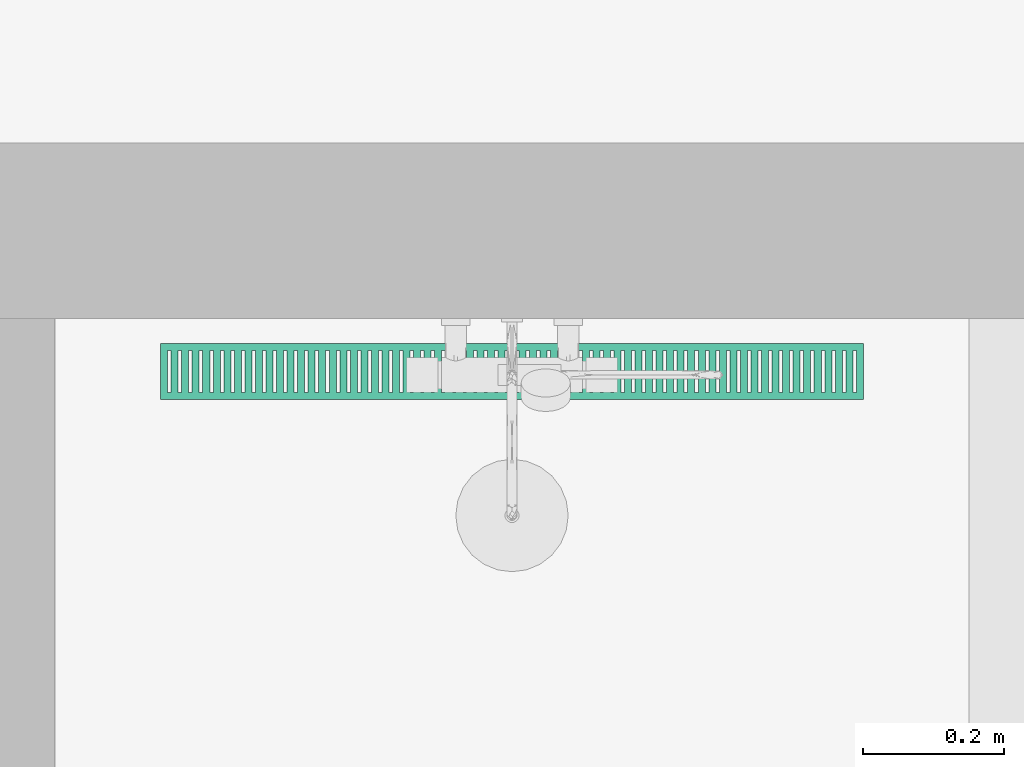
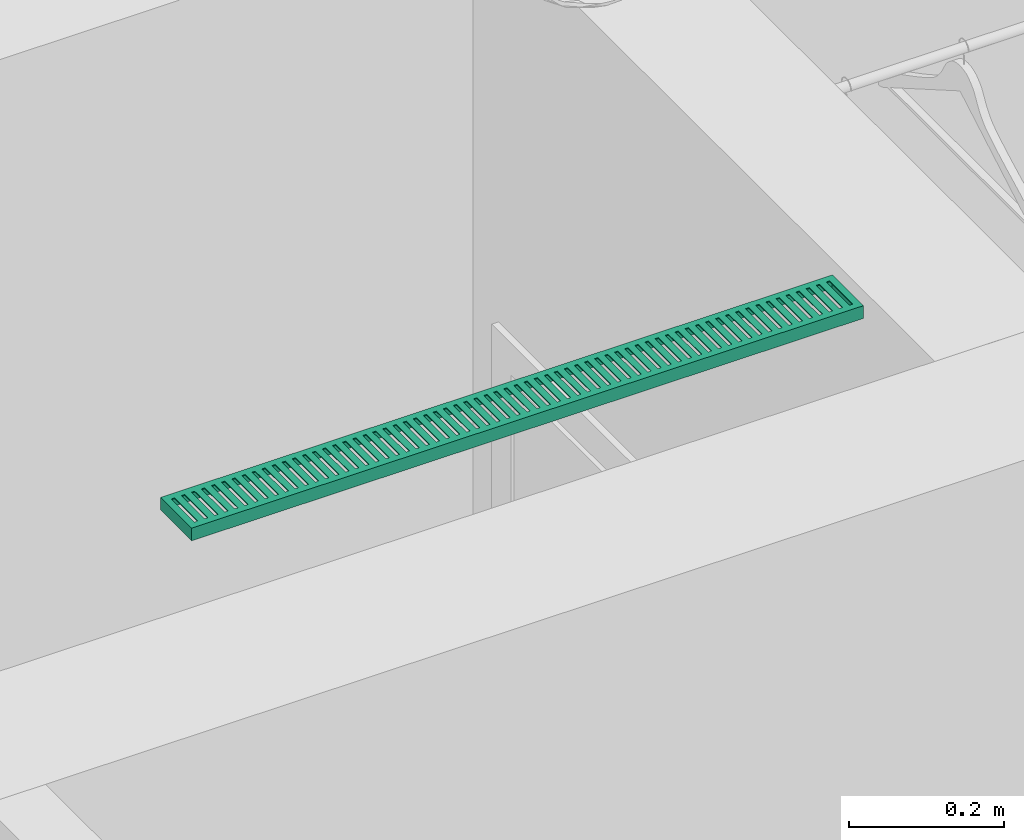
# One storey, part 48 of 125: 1 flow terminal.
"""IFC2X3 building model written with IfcOpenShell, lengths in millimetres."""

from ifc_helpers import new_model, entity, si_unit, converted_unit, direction, frame, origin, place, context, subcontext, project, spatial, faceted_brep, source, transform, mapped, material, type_object, type_shapes, element, save


model = new_model("IFC2X3")

# Units and contexts
model_context = context("Model", 3, precision=0.01, world=origin(), true_north=direction((6.123233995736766e-17, 1.0)))
plan_context = context("Plan", 3, precision=0.01, world=origin(), true_north=direction((6.123233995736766e-17, 1.0)))
body_context = subcontext(model_context, "Body", "Model", "MODEL_VIEW")
ifc_project = project(units=[si_unit("LENGTHUNIT", "METRE", prefix="MILLI"), converted_unit("PLANEANGLEUNIT", "DEGREE", entity("IfcPlaneAngleMeasure", 0.017453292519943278), si_unit("PLANEANGLEUNIT", "RADIAN"), dimensions=[0, 0, 0, 0, 0, 0, 0]), si_unit("AREAUNIT", "SQUARE_METRE")], contexts=[model_context, plan_context])

# Site, building, storey, space
site_placement = place(None, origin())
site = spatial("IfcSite", under=ifc_project, at=site_placement, Name="Default", CompositionType="ELEMENT")
building_placement = place(site_placement, origin())
building = spatial("IfcBuilding", under=site, at=building_placement, CompositionType="ELEMENT")
storey_placement = place(building_placement, frame((0.0, 0.0, 3125.0)))
storey = spatial("IfcBuildingStorey", under=building, at=storey_placement, Name="2K", CompositionType="ELEMENT", Elevation=3125.0)
space_placement = place(storey_placement, origin())
space = spatial("IfcSpace", under=storey, at=space_placement, Name="2-4.6", CompositionType="ELEMENT", InteriorOrExteriorSpace="INTERNAL")

# Flow terminal
ifc_material = material(Name="<Unnamed>")
distribution_element_type = type_object("IfcDistributionElementType", Name="HR_Plumbing-fixtures_Drain_Channel_Generic_v1:Default", material=ifc_material)
shared_shape = source(origin(), body_context, "Body", "Brep", [
    faceted_brep([(500.0, 80.0, 0.0), (-500.0, 80.0, 0.0), (-500.0, 0.0, 0.0), (500.0, 0.0, 0.0), (20.0, 70.0, 0.0), (25.0, 70.0, 0.0), (25.0, 10.0, 0.0), (20.0, 10.0, 0.0), (35.0, 70.0, 0.0), (40.0, 70.0, 0.0), (40.0, 10.0, 0.0), (35.0, 10.0, 0.0), (50.0, 70.0, 0.0), (55.0, 70.0, 0.0), (55.0, 10.0, 0.0), (50.0, 10.0, 0.0), (65.0, 70.0, 0.0), (70.0, 70.0, 0.0), (70.0, 10.0, 0.0), (65.0, 10.0, 0.0), (80.0, 70.0, 0.0), (85.0, 70.0, 0.0), (85.0, 10.0, 0.0), (80.0, 10.0, 0.0), (95.0, 70.0, 0.0), (100.0, 70.0, 0.0), (100.0, 10.0, 0.0), (95.0, 10.0, 0.0), (110.0, 70.0, 0.0), (115.0, 70.0, 0.0), (115.0, 10.0, 0.0), (110.0, 10.0, 0.0), (125.0, 70.0, 0.0), (130.0, 70.0, 0.0), (130.0, 10.0, 0.0), (125.0, 10.0, 0.0), (140.0, 70.0, 0.0), (145.0, 70.0, 0.0), (145.0, 10.0, 0.0), (140.0, 10.0, 0.0), (155.0, 70.0, 0.0), (160.0, 70.0, 0.0), (160.0, 10.0, 0.0), (155.0, 10.0, 0.0), (170.0, 70.0, 0.0), (175.0, 70.0, 0.0), (175.0, 10.0, 0.0), (170.0, 10.0, 0.0), (185.0, 70.0, 0.0), (190.0, 70.0, 0.0), (190.0, 10.0, 0.0), (185.0, 10.0, 0.0), (200.0, 70.0, 0.0), (205.0, 70.0, 0.0), (205.0, 10.0, 0.0), (200.0, 10.0, 0.0), (215.0, 70.0, 0.0), (220.0, 70.0, 0.0), (220.0, 10.0, 0.0), (215.0, 10.0, 0.0), (230.0, 70.0, 0.0), (235.0, 70.0, 0.0), (235.0, 10.0, 0.0), (230.0, 10.0, 0.0), (245.0, 70.0, 0.0), (250.0, 70.0, 0.0), (250.0, 10.0, 0.0), (245.0, 10.0, 0.0), (260.0, 70.0, 0.0), (265.0, 70.0, 0.0), (265.0, 10.0, 0.0), (260.0, 10.0, 0.0), (275.0, 70.0, 0.0), (280.0, 70.0, 0.0), (280.0, 10.0, 0.0), (275.0, 10.0, 0.0), (290.0, 70.0, 0.0), (295.0, 70.0, 0.0), (295.0, 10.0, 0.0), (290.0, 10.0, 0.0), (305.0, 70.0, 0.0), (310.0, 70.0, 0.0), (310.0, 10.0, 0.0), (305.0, 10.0, 0.0), (320.0, 70.0, 0.0), (325.0, 70.0, 0.0), (325.0, 10.0, 0.0), (320.0, 10.0, 0.0), (335.0, 70.0, 0.0), (340.0, 70.0, 0.0), (340.0, 10.0, 0.0), (335.0, 10.0, 0.0), (350.0, 70.0, 0.0), (355.0, 70.0, 0.0), (355.0, 10.0, 0.0), (350.0, 10.0, 0.0), (365.0, 70.0, 0.0), (370.0, 70.0, 0.0), (370.0, 10.0, 0.0), (365.0, 10.0, 0.0), (380.0, 70.0, 0.0), (385.0, 70.0, 0.0), (385.0, 10.0, 0.0), (380.0, 10.0, 0.0), (-25.0, 70.0, 0.0), (-20.0, 70.0, 0.0), (-20.0, 10.0, 0.0), (-25.0, 10.0, 0.0), (-40.0, 70.0, 0.0), (-35.0, 70.0, 0.0), (-35.0, 10.0, 0.0), (-40.0, 10.0, 0.0), (-55.0, 70.0, 0.0), (-50.0, 70.0, 0.0), (-50.0, 10.0, 0.0), (-55.0, 10.0, 0.0), (-70.0, 70.0, 0.0), (-65.0, 70.0, 0.0), (-65.0, 10.0, 0.0), (-70.0, 10.0, 0.0), (-85.0, 70.0, 0.0), (-80.0, 70.0, 0.0), (-80.0, 10.0, 0.0), (-85.0, 10.0, 0.0), (-100.0, 70.0, 0.0), (-95.0, 70.0, 0.0), (-95.0, 10.0, 0.0), (-100.0, 10.0, 0.0), (-115.0, 70.0, 0.0), (-110.0, 70.0, 0.0), (-110.0, 10.0, 0.0), (-115.0, 10.0, 0.0), (-130.0, 70.0, 0.0), (-125.0, 70.0, 0.0), (-125.0, 10.0, 0.0), (-130.0, 10.0, 0.0), (-145.0, 70.0, 0.0), (-140.0, 70.0, 0.0), (-140.0, 10.0, 0.0), (-145.0, 10.0, 0.0), (-160.0, 70.0, 0.0), (-155.0, 70.0, 0.0), (-155.0, 10.0, 0.0), (-160.0, 10.0, 0.0), (-175.0, 70.0, 0.0), (-170.0, 70.0, 0.0), (-170.0, 10.0, 0.0), (-175.0, 10.0, 0.0), (-190.0, 70.0, 0.0), (-185.0, 70.0, 0.0), (-185.0, 10.0, 0.0), (-190.0, 10.0, 0.0), (-205.0, 70.0, 0.0), (-200.0, 70.0, 0.0), (-200.0, 10.0, 0.0), (-205.0, 10.0, 0.0), (-220.0, 70.0, 0.0), (-215.0, 70.0, 0.0), (-215.0, 10.0, 0.0), (-220.0, 10.0, 0.0), (-235.0, 70.0, 0.0), (-230.0, 70.0, 0.0), (-230.0, 10.0, 0.0), (-235.0, 10.0, 0.0), (-250.0, 70.0, 0.0), (-245.0, 70.0, 0.0), (-245.0, 10.0, 0.0), (-250.0, 10.0, 0.0), (-265.0, 70.0, 0.0), (-260.0, 70.0, 0.0), (-260.0, 10.0, 0.0), (-265.0, 10.0, 0.0), (-280.0, 70.0, 0.0), (-275.0, 70.0, 0.0), (-275.0, 10.0, 0.0), (-280.0, 10.0, 0.0), (-295.0, 70.0, 0.0), (-290.0, 70.0, 0.0), (-290.0, 10.0, 0.0), (-295.0, 10.0, 0.0), (-310.0, 70.0, 0.0), (-305.0, 70.0, 0.0), (-305.0, 10.0, 0.0), (-310.0, 10.0, 0.0), (-325.0, 70.0, 0.0), (-320.0, 70.0, 0.0), (-320.0, 10.0, 0.0), (-325.0, 10.0, 0.0), (-340.0, 70.0, 0.0), (-335.0, 70.0, 0.0), (-335.0, 10.0, 0.0), (-340.0, 10.0, 0.0), (-355.0, 70.0, 0.0), (-350.0, 70.0, 0.0), (-350.0, 10.0, 0.0), (-355.0, 10.0, 0.0), (-370.0, 70.0, 0.0), (-365.0, 70.0, 0.0), (-365.0, 10.0, 0.0), (-370.0, 10.0, 0.0), (-385.0, 70.0, 0.0), (-380.0, 70.0, 0.0), (-380.0, 10.0, 0.0), (-385.0, 10.0, 0.0), (395.0, 70.0, 0.0), (400.0, 70.0, 0.0), (400.0, 10.0, 0.0), (395.0, 10.0, 0.0), (410.0, 70.0, 0.0), (415.0, 70.0, 0.0), (415.0, 10.0, 0.0), (410.0, 10.0, 0.0), (425.0, 70.0, 0.0), (430.0, 70.0, 0.0), (430.0, 10.0, 0.0), (425.0, 10.0, 0.0), (440.0, 70.0, 0.0), (445.0, 70.0, 0.0), (445.0, 10.0, 0.0), (440.0, 10.0, 0.0), (455.0, 70.0, 0.0), (460.0, 70.0, 0.0), (460.0, 10.0, 0.0), (455.0, 10.0, 0.0), (470.0, 70.0, 0.0), (475.0, 70.0, 0.0), (475.0, 10.0, 0.0), (470.0, 10.0, 0.0), (485.0, 70.0, 0.0), (490.0, 70.0, 0.0), (490.0, 10.0, 0.0), (485.0, 10.0, 0.0), (-400.0, 70.0, 0.0), (-395.0, 70.0, 0.0), (-395.0, 10.0, 0.0), (-400.0, 10.0, 0.0), (-415.0, 70.0, 0.0), (-410.0, 70.0, 0.0), (-410.0, 10.0, 0.0), (-415.0, 10.0, 0.0), (-430.0, 70.0, 0.0), (-425.0, 70.0, 0.0), (-425.0, 10.0, 0.0), (-430.0, 10.0, 0.0), (-445.0, 70.0, 0.0), (-440.0, 70.0, 0.0), (-440.0, 10.0, 0.0), (-445.0, 10.0, 0.0), (-460.0, 70.0, 0.0), (-455.0, 70.0, 0.0), (-455.0, 10.0, 0.0), (-460.0, 10.0, 0.0), (-475.0, 70.0, 0.0), (-470.0, 70.0, 0.0), (-470.0, 10.0, 0.0), (-475.0, 10.0, 0.0), (-490.0, 70.0, 0.0), (-485.0, 70.0, 0.0), (-485.0, 10.0, 0.0), (-490.0, 10.0, 0.0), (-10.0, 70.0, 0.0), (-5.0, 70.0, 0.0), (-5.0, 10.0, 0.0), (-10.0, 10.0, 0.0), (5.0, 70.0, 0.0), (10.0, 70.0, 0.0), (10.0, 10.0, 0.0), (5.0, 10.0, 0.0), (-500.0, 80.0, -20.0), (500.0, 80.0, -20.0), (500.0, 0.0, -20.0), (-500.0, 0.0, -20.0), (498.5000000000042, 78.500000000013, -20.0), (-498.49999999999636, 78.500000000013, -20.0), (-498.49999999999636, 1.5000000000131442, -20.0), (498.5000000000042, 1.5000000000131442, -20.0), (498.5000000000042, 78.500000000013, -1.5000000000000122), (498.5000000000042, 1.5000000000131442, -1.5000000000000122), (-498.49999999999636, 1.5000000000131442, -1.5000000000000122), (-498.49999999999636, 78.500000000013, -1.5000000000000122), (25.0, 70.0, -1.5000000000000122), (20.0, 70.0, -1.5000000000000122), (20.0, 10.0, -1.5000000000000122), (25.0, 10.0, -1.5000000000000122), (40.0, 70.0, -1.5000000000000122), (35.0, 70.0, -1.5000000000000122), (35.0, 10.0, -1.5000000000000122), (40.0, 10.0, -1.5000000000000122), (55.0, 70.0, -1.5000000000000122), (50.0, 70.0, -1.5000000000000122), (50.0, 10.0, -1.5000000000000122), (55.0, 10.0, -1.5000000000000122), (70.0, 70.0, -1.5000000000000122), (65.0, 70.0, -1.5000000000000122), (65.0, 10.0, -1.5000000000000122), (70.0, 10.0, -1.5000000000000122), (85.0, 70.0, -1.5000000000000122), (80.0, 70.0, -1.5000000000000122), (80.0, 10.0, -1.5000000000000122), (85.0, 10.0, -1.5000000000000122), (100.0, 70.0, -1.5000000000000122), (95.0, 70.0, -1.5000000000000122), (95.0, 10.0, -1.5000000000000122), (100.0, 10.0, -1.5000000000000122), (115.0, 70.0, -1.5000000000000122), (110.0, 70.0, -1.5000000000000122), (110.0, 10.0, -1.5000000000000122), (115.0, 10.0, -1.5000000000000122), (130.0, 70.0, -1.5000000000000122), (125.0, 70.0, -1.5000000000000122), (125.0, 10.0, -1.5000000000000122), (130.0, 10.0, -1.5000000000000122), (145.0, 70.0, -1.5000000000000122), (140.0, 70.0, -1.5000000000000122), (140.0, 10.0, -1.5000000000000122), (145.0, 10.0, -1.5000000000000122), (160.0, 70.0, -1.5000000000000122), (155.0, 70.0, -1.5000000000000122), (155.0, 10.0, -1.5000000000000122), (160.0, 10.0, -1.5000000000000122), (175.0, 70.0, -1.5000000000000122), (170.0, 70.0, -1.5000000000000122), (170.0, 10.0, -1.5000000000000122), (175.0, 10.0, -1.5000000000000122), (190.0, 70.0, -1.5000000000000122), (185.0, 70.0, -1.5000000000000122), (185.0, 10.0, -1.5000000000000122), (190.0, 10.0, -1.5000000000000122), (205.0, 70.0, -1.5000000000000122), (200.0, 70.0, -1.5000000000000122), (200.0, 10.0, -1.5000000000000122), (205.0, 10.0, -1.5000000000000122), (220.0, 70.0, -1.5000000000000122), (215.0, 70.0, -1.5000000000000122), (215.0, 10.0, -1.5000000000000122), (220.0, 10.0, -1.5000000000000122), (235.0, 70.0, -1.5000000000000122), (230.0, 70.0, -1.5000000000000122), (230.0, 10.0, -1.5000000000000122), (235.0, 10.0, -1.5000000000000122), (250.0, 70.0, -1.5000000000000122), (245.0, 70.0, -1.5000000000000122), (245.0, 10.0, -1.5000000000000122), (250.0, 10.0, -1.5000000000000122), (265.0, 70.0, -1.5000000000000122), (260.0, 70.0, -1.5000000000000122), (260.0, 10.0, -1.5000000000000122), (265.0, 10.0, -1.5000000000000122), (280.0, 70.0, -1.5000000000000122), (275.0, 70.0, -1.5000000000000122), (275.0, 10.0, -1.5000000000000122), (280.0, 10.0, -1.5000000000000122), (295.0, 70.0, -1.5000000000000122), (290.0, 70.0, -1.5000000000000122), (290.0, 10.0, -1.5000000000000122), (295.0, 10.0, -1.5000000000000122), (310.0, 70.0, -1.5000000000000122), (305.0, 70.0, -1.5000000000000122), (305.0, 10.0, -1.5000000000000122), (310.0, 10.0, -1.5000000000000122), (325.0, 70.0, -1.5000000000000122), (320.0, 70.0, -1.5000000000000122), (320.0, 10.0, -1.5000000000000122), (325.0, 10.0, -1.5000000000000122), (340.0, 70.0, -1.5000000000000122), (335.0, 70.0, -1.5000000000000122), (335.0, 10.0, -1.5000000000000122), (340.0, 10.0, -1.5000000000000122), (355.0, 70.0, -1.5000000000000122), (350.0, 70.0, -1.5000000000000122), (350.0, 10.0, -1.5000000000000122), (355.0, 10.0, -1.5000000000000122), (370.0, 70.0, -1.5000000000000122), (365.0, 70.0, -1.5000000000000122), (365.0, 10.0, -1.5000000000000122), (370.0, 10.0, -1.5000000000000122), (385.0, 70.0, -1.5000000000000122), (380.0, 70.0, -1.5000000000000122), (380.0, 10.0, -1.5000000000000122), (385.0, 10.0, -1.5000000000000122), (-20.0, 70.0, -1.5000000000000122), (-25.0, 70.0, -1.5000000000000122), (-25.0, 10.0, -1.5000000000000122), (-20.0, 10.0, -1.5000000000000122), (-35.0, 70.0, -1.5000000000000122), (-40.0, 70.0, -1.5000000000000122), (-40.0, 10.0, -1.5000000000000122), (-35.0, 10.0, -1.5000000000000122), (-50.0, 70.0, -1.5000000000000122), (-55.0, 70.0, -1.5000000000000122), (-55.0, 10.0, -1.5000000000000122), (-50.0, 10.0, -1.5000000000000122), (-65.0, 70.0, -1.5000000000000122), (-70.0, 70.0, -1.5000000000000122), (-70.0, 10.0, -1.5000000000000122), (-65.0, 10.0, -1.5000000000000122), (-80.0, 70.0, -1.5000000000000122), (-85.0, 70.0, -1.5000000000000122), (-85.0, 10.0, -1.5000000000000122), (-80.0, 10.0, -1.5000000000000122), (-95.0, 70.0, -1.5000000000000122), (-100.0, 70.0, -1.5000000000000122), (-100.0, 10.0, -1.5000000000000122), (-95.0, 10.0, -1.5000000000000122), (-110.0, 70.0, -1.5000000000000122), (-115.0, 70.0, -1.5000000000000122), (-115.0, 10.0, -1.5000000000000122), (-110.0, 10.0, -1.5000000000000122), (-125.0, 70.0, -1.5000000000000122), (-130.0, 70.0, -1.5000000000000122), (-130.0, 10.0, -1.5000000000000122), (-125.0, 10.0, -1.5000000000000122), (-140.0, 70.0, -1.5000000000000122), (-145.0, 70.0, -1.5000000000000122), (-145.0, 10.0, -1.5000000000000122), (-140.0, 10.0, -1.5000000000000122), (-155.0, 70.0, -1.5000000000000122), (-160.0, 70.0, -1.5000000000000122), (-160.0, 10.0, -1.5000000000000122), (-155.0, 10.0, -1.5000000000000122), (-170.0, 70.0, -1.5000000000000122), (-175.0, 70.0, -1.5000000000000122), (-175.0, 10.0, -1.5000000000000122), (-170.0, 10.0, -1.5000000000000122), (-185.0, 70.0, -1.5000000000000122), (-190.0, 70.0, -1.5000000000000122), (-190.0, 10.0, -1.5000000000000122), (-185.0, 10.0, -1.5000000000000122), (-200.0, 70.0, -1.5000000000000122), (-205.0, 70.0, -1.5000000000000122), (-205.0, 10.0, -1.5000000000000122), (-200.0, 10.0, -1.5000000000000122), (-215.0, 70.0, -1.5000000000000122), (-220.0, 70.0, -1.5000000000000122), (-220.0, 10.0, -1.5000000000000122), (-215.0, 10.0, -1.5000000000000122), (-230.0, 70.0, -1.5000000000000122), (-235.0, 70.0, -1.5000000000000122), (-235.0, 10.0, -1.5000000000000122), (-230.0, 10.0, -1.5000000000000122), (-245.0, 70.0, -1.5000000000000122), (-250.0, 70.0, -1.5000000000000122), (-250.0, 10.0, -1.5000000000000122), (-245.0, 10.0, -1.5000000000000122), (-260.0, 70.0, -1.5000000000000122), (-265.0, 70.0, -1.5000000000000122), (-265.0, 10.0, -1.5000000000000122), (-260.0, 10.0, -1.5000000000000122), (-275.0, 70.0, -1.5000000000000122), (-280.0, 70.0, -1.5000000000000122), (-280.0, 10.0, -1.5000000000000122), (-275.0, 10.0, -1.5000000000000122), (-290.0, 70.0, -1.5000000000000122), (-295.0, 70.0, -1.5000000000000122), (-295.0, 10.0, -1.5000000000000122), (-290.0, 10.0, -1.5000000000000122), (-305.0, 70.0, -1.5000000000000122), (-310.0, 70.0, -1.5000000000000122), (-310.0, 10.0, -1.5000000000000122), (-305.0, 10.0, -1.5000000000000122), (-320.0, 70.0, -1.5000000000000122), (-325.0, 70.0, -1.5000000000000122), (-325.0, 10.0, -1.5000000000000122), (-320.0, 10.0, -1.5000000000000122), (-335.0, 70.0, -1.5000000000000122), (-340.0, 70.0, -1.5000000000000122), (-340.0, 10.0, -1.5000000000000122), (-335.0, 10.0, -1.5000000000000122), (-350.0, 70.0, -1.5000000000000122), (-355.0, 70.0, -1.5000000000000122), (-355.0, 10.0, -1.5000000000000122), (-350.0, 10.0, -1.5000000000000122), (-365.0, 70.0, -1.5000000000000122), (-370.0, 70.0, -1.5000000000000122), (-370.0, 10.0, -1.5000000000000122), (-365.0, 10.0, -1.5000000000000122), (-380.0, 70.0, -1.5000000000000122), (-385.0, 70.0, -1.5000000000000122), (-385.0, 10.0, -1.5000000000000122), (-380.0, 10.0, -1.5000000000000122), (400.0, 70.0, -1.5000000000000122), (395.0, 70.0, -1.5000000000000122), (395.0, 10.0, -1.5000000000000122), (400.0, 10.0, -1.5000000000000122), (415.0, 70.0, -1.5000000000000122), (410.0, 70.0, -1.5000000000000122), (410.0, 10.0, -1.5000000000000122), (415.0, 10.0, -1.5000000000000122), (430.0, 70.0, -1.5000000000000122), (425.0, 70.0, -1.5000000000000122), (425.0, 10.0, -1.5000000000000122), (430.0, 10.0, -1.5000000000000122), (445.0, 70.0, -1.5000000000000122), (440.0, 70.0, -1.5000000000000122), (440.0, 10.0, -1.5000000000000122), (445.0, 10.0, -1.5000000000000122), (460.0, 70.0, -1.5000000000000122), (455.0, 70.0, -1.5000000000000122), (455.0, 10.0, -1.5000000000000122), (460.0, 10.0, -1.5000000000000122), (475.0, 70.0, -1.5000000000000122), (470.0, 70.0, -1.5000000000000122), (470.0, 10.0, -1.5000000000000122), (475.0, 10.0, -1.5000000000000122), (490.0, 70.0, -1.5000000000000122), (485.0, 70.0, -1.5000000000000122), (485.0, 10.0, -1.5000000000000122), (490.0, 10.0, -1.5000000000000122), (-395.0, 70.0, -1.5000000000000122), (-400.0, 70.0, -1.5000000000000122), (-400.0, 10.0, -1.5000000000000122), (-395.0, 10.0, -1.5000000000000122), (-410.0, 70.0, -1.5000000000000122), (-415.0, 70.0, -1.5000000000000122), (-415.0, 10.0, -1.5000000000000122), (-410.0, 10.0, -1.5000000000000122), (-425.0, 70.0, -1.5000000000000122), (-430.0, 70.0, -1.5000000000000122), (-430.0, 10.0, -1.5000000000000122), (-425.0, 10.0, -1.5000000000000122), (-440.0, 70.0, -1.5000000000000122), (-445.0, 70.0, -1.5000000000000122), (-445.0, 10.0, -1.5000000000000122), (-440.0, 10.0, -1.5000000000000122), (-455.0, 70.0, -1.5000000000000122), (-460.0, 70.0, -1.5000000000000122), (-460.0, 10.0, -1.5000000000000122), (-455.0, 10.0, -1.5000000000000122), (-470.0, 70.0, -1.5000000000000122), (-475.0, 70.0, -1.5000000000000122), (-475.0, 10.0, -1.5000000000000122), (-470.0, 10.0, -1.5000000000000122), (-485.0, 70.0, -1.5000000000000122), (-490.0, 70.0, -1.5000000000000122), (-490.0, 10.0, -1.5000000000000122), (-485.0, 10.0, -1.5000000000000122), (-5.0, 70.0, -1.5000000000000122), (-10.0, 70.0, -1.5000000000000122), (-10.0, 10.0, -1.5000000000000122), (-5.0, 10.0, -1.5000000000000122), (10.0, 70.0, -1.5000000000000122), (5.0, 70.0, -1.5000000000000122), (5.0, 10.0, -1.5000000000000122), (10.0, 10.0, -1.5000000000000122)], [[[0, 1, 2, 3], [4, 5, 6, 7], [8, 9, 10, 11], [12, 13, 14, 15], [16, 17, 18, 19], [20, 21, 22, 23], [24, 25, 26, 27], [28, 29, 30, 31], [32, 33, 34, 35], [36, 37, 38, 39], [40, 41, 42, 43], [44, 45, 46, 47], [48, 49, 50, 51], [52, 53, 54, 55], [56, 57, 58, 59], [60, 61, 62, 63], [64, 65, 66, 67], [68, 69, 70, 71], [72, 73, 74, 75], [76, 77, 78, 79], [80, 81, 82, 83], [84, 85, 86, 87], [88, 89, 90, 91], [92, 93, 94, 95], [96, 97, 98, 99], [100, 101, 102, 103], [104, 105, 106, 107], [108, 109, 110, 111], [112, 113, 114, 115], [116, 117, 118, 119], [120, 121, 122, 123], [124, 125, 126, 127], [128, 129, 130, 131], [132, 133, 134, 135], [136, 137, 138, 139], [140, 141, 142, 143], [144, 145, 146, 147], [148, 149, 150, 151], [152, 153, 154, 155], [156, 157, 158, 159], [160, 161, 162, 163], [164, 165, 166, 167], [168, 169, 170, 171], [172, 173, 174, 175], [176, 177, 178, 179], [180, 181, 182, 183], [184, 185, 186, 187], [188, 189, 190, 191], [192, 193, 194, 195], [196, 197, 198, 199], [200, 201, 202, 203], [204, 205, 206, 207], [208, 209, 210, 211], [212, 213, 214, 215], [216, 217, 218, 219], [220, 221, 222, 223], [224, 225, 226, 227], [228, 229, 230, 231], [232, 233, 234, 235], [236, 237, 238, 239], [240, 241, 242, 243], [244, 245, 246, 247], [248, 249, 250, 251], [252, 253, 254, 255], [256, 257, 258, 259], [260, 261, 262, 263], [264, 265, 266, 267]], [[268, 269, 270, 271], [272, 273, 274, 275]], [[1, 0, 269, 268]], [[2, 1, 268, 271]], [[3, 2, 271, 270]], [[0, 3, 270, 269]], [[276, 277, 278, 279], [280, 281, 282, 283], [284, 285, 286, 287], [288, 289, 290, 291], [292, 293, 294, 295], [296, 297, 298, 299], [300, 301, 302, 303], [304, 305, 306, 307], [308, 309, 310, 311], [312, 313, 314, 315], [316, 317, 318, 319], [320, 321, 322, 323], [324, 325, 326, 327], [328, 329, 330, 331], [332, 333, 334, 335], [336, 337, 338, 339], [340, 341, 342, 343], [344, 345, 346, 347], [348, 349, 350, 351], [352, 353, 354, 355], [356, 357, 358, 359], [360, 361, 362, 363], [364, 365, 366, 367], [368, 369, 370, 371], [372, 373, 374, 375], [376, 377, 378, 379], [380, 381, 382, 383], [384, 385, 386, 387], [388, 389, 390, 391], [392, 393, 394, 395], [396, 397, 398, 399], [400, 401, 402, 403], [404, 405, 406, 407], [408, 409, 410, 411], [412, 413, 414, 415], [416, 417, 418, 419], [420, 421, 422, 423], [424, 425, 426, 427], [428, 429, 430, 431], [432, 433, 434, 435], [436, 437, 438, 439], [440, 441, 442, 443], [444, 445, 446, 447], [448, 449, 450, 451], [452, 453, 454, 455], [456, 457, 458, 459], [460, 461, 462, 463], [464, 465, 466, 467], [468, 469, 470, 471], [472, 473, 474, 475], [476, 477, 478, 479], [480, 481, 482, 483], [484, 485, 486, 487], [488, 489, 490, 491], [492, 493, 494, 495], [496, 497, 498, 499], [500, 501, 502, 503], [504, 505, 506, 507], [508, 509, 510, 511], [512, 513, 514, 515], [516, 517, 518, 519], [520, 521, 522, 523], [524, 525, 526, 527], [528, 529, 530, 531], [532, 533, 534, 535], [536, 537, 538, 539], [540, 541, 542, 543]], [[276, 279, 273, 272]], [[279, 278, 274, 273]], [[278, 277, 275, 274]], [[277, 276, 272, 275]], [[5, 4, 281, 280]], [[4, 7, 282, 281]], [[7, 6, 283, 282]], [[6, 5, 280, 283]], [[9, 8, 285, 284]], [[8, 11, 286, 285]], [[11, 10, 287, 286]], [[10, 9, 284, 287]], [[13, 12, 289, 288]], [[12, 15, 290, 289]], [[15, 14, 291, 290]], [[14, 13, 288, 291]], [[17, 16, 293, 292]], [[16, 19, 294, 293]], [[19, 18, 295, 294]], [[18, 17, 292, 295]], [[21, 20, 297, 296]], [[20, 23, 298, 297]], [[23, 22, 299, 298]], [[22, 21, 296, 299]], [[25, 24, 301, 300]], [[24, 27, 302, 301]], [[27, 26, 303, 302]], [[26, 25, 300, 303]], [[29, 28, 305, 304]], [[28, 31, 306, 305]], [[31, 30, 307, 306]], [[30, 29, 304, 307]], [[33, 32, 309, 308]], [[32, 35, 310, 309]], [[35, 34, 311, 310]], [[34, 33, 308, 311]], [[37, 36, 313, 312]], [[36, 39, 314, 313]], [[39, 38, 315, 314]], [[38, 37, 312, 315]], [[41, 40, 317, 316]], [[40, 43, 318, 317]], [[43, 42, 319, 318]], [[42, 41, 316, 319]], [[45, 44, 321, 320]], [[44, 47, 322, 321]], [[47, 46, 323, 322]], [[46, 45, 320, 323]], [[49, 48, 325, 324]], [[48, 51, 326, 325]], [[51, 50, 327, 326]], [[50, 49, 324, 327]], [[53, 52, 329, 328]], [[52, 55, 330, 329]], [[55, 54, 331, 330]], [[54, 53, 328, 331]], [[57, 56, 333, 332]], [[56, 59, 334, 333]], [[59, 58, 335, 334]], [[58, 57, 332, 335]], [[61, 60, 337, 336]], [[60, 63, 338, 337]], [[63, 62, 339, 338]], [[62, 61, 336, 339]], [[65, 64, 341, 340]], [[64, 67, 342, 341]], [[67, 66, 343, 342]], [[66, 65, 340, 343]], [[69, 68, 345, 344]], [[68, 71, 346, 345]], [[71, 70, 347, 346]], [[70, 69, 344, 347]], [[73, 72, 349, 348]], [[72, 75, 350, 349]], [[75, 74, 351, 350]], [[74, 73, 348, 351]], [[77, 76, 353, 352]], [[76, 79, 354, 353]], [[79, 78, 355, 354]], [[78, 77, 352, 355]], [[81, 80, 357, 356]], [[80, 83, 358, 357]], [[83, 82, 359, 358]], [[82, 81, 356, 359]], [[85, 84, 361, 360]], [[84, 87, 362, 361]], [[87, 86, 363, 362]], [[86, 85, 360, 363]], [[89, 88, 365, 364]], [[88, 91, 366, 365]], [[91, 90, 367, 366]], [[90, 89, 364, 367]], [[93, 92, 369, 368]], [[92, 95, 370, 369]], [[95, 94, 371, 370]], [[94, 93, 368, 371]], [[97, 96, 373, 372]], [[96, 99, 374, 373]], [[99, 98, 375, 374]], [[98, 97, 372, 375]], [[101, 100, 377, 376]], [[100, 103, 378, 377]], [[103, 102, 379, 378]], [[102, 101, 376, 379]], [[105, 104, 381, 380]], [[104, 107, 382, 381]], [[107, 106, 383, 382]], [[106, 105, 380, 383]], [[109, 108, 385, 384]], [[108, 111, 386, 385]], [[111, 110, 387, 386]], [[110, 109, 384, 387]], [[113, 112, 389, 388]], [[112, 115, 390, 389]], [[115, 114, 391, 390]], [[114, 113, 388, 391]], [[117, 116, 393, 392]], [[116, 119, 394, 393]], [[119, 118, 395, 394]], [[118, 117, 392, 395]], [[121, 120, 397, 396]], [[120, 123, 398, 397]], [[123, 122, 399, 398]], [[122, 121, 396, 399]], [[125, 124, 401, 400]], [[124, 127, 402, 401]], [[127, 126, 403, 402]], [[126, 125, 400, 403]], [[129, 128, 405, 404]], [[128, 131, 406, 405]], [[131, 130, 407, 406]], [[130, 129, 404, 407]], [[133, 132, 409, 408]], [[132, 135, 410, 409]], [[135, 134, 411, 410]], [[134, 133, 408, 411]], [[137, 136, 413, 412]], [[136, 139, 414, 413]], [[139, 138, 415, 414]], [[138, 137, 412, 415]], [[141, 140, 417, 416]], [[140, 143, 418, 417]], [[143, 142, 419, 418]], [[142, 141, 416, 419]], [[145, 144, 421, 420]], [[144, 147, 422, 421]], [[147, 146, 423, 422]], [[146, 145, 420, 423]], [[149, 148, 425, 424]], [[148, 151, 426, 425]], [[151, 150, 427, 426]], [[150, 149, 424, 427]], [[153, 152, 429, 428]], [[152, 155, 430, 429]], [[155, 154, 431, 430]], [[154, 153, 428, 431]], [[157, 156, 433, 432]], [[156, 159, 434, 433]], [[159, 158, 435, 434]], [[158, 157, 432, 435]], [[161, 160, 437, 436]], [[160, 163, 438, 437]], [[163, 162, 439, 438]], [[162, 161, 436, 439]], [[165, 164, 441, 440]], [[164, 167, 442, 441]], [[167, 166, 443, 442]], [[166, 165, 440, 443]], [[169, 168, 445, 444]], [[168, 171, 446, 445]], [[171, 170, 447, 446]], [[170, 169, 444, 447]], [[173, 172, 449, 448]], [[172, 175, 450, 449]], [[175, 174, 451, 450]], [[174, 173, 448, 451]], [[177, 176, 453, 452]], [[176, 179, 454, 453]], [[179, 178, 455, 454]], [[178, 177, 452, 455]], [[181, 180, 457, 456]], [[180, 183, 458, 457]], [[183, 182, 459, 458]], [[182, 181, 456, 459]], [[185, 184, 461, 460]], [[184, 187, 462, 461]], [[187, 186, 463, 462]], [[186, 185, 460, 463]], [[189, 188, 465, 464]], [[188, 191, 466, 465]], [[191, 190, 467, 466]], [[190, 189, 464, 467]], [[193, 192, 469, 468]], [[192, 195, 470, 469]], [[195, 194, 471, 470]], [[194, 193, 468, 471]], [[197, 196, 473, 472]], [[196, 199, 474, 473]], [[199, 198, 475, 474]], [[198, 197, 472, 475]], [[201, 200, 477, 476]], [[200, 203, 478, 477]], [[203, 202, 479, 478]], [[202, 201, 476, 479]], [[205, 204, 481, 480]], [[204, 207, 482, 481]], [[207, 206, 483, 482]], [[206, 205, 480, 483]], [[209, 208, 485, 484]], [[208, 211, 486, 485]], [[211, 210, 487, 486]], [[210, 209, 484, 487]], [[213, 212, 489, 488]], [[212, 215, 490, 489]], [[215, 214, 491, 490]], [[214, 213, 488, 491]], [[217, 216, 493, 492]], [[216, 219, 494, 493]], [[219, 218, 495, 494]], [[218, 217, 492, 495]], [[221, 220, 497, 496]], [[220, 223, 498, 497]], [[223, 222, 499, 498]], [[222, 221, 496, 499]], [[225, 224, 501, 500]], [[224, 227, 502, 501]], [[227, 226, 503, 502]], [[226, 225, 500, 503]], [[229, 228, 505, 504]], [[228, 231, 506, 505]], [[231, 230, 507, 506]], [[230, 229, 504, 507]], [[233, 232, 509, 508]], [[232, 235, 510, 509]], [[235, 234, 511, 510]], [[234, 233, 508, 511]], [[237, 236, 513, 512]], [[236, 239, 514, 513]], [[239, 238, 515, 514]], [[238, 237, 512, 515]], [[241, 240, 517, 516]], [[240, 243, 518, 517]], [[243, 242, 519, 518]], [[242, 241, 516, 519]], [[245, 244, 521, 520]], [[244, 247, 522, 521]], [[247, 246, 523, 522]], [[246, 245, 520, 523]], [[249, 248, 525, 524]], [[248, 251, 526, 525]], [[251, 250, 527, 526]], [[250, 249, 524, 527]], [[253, 252, 529, 528]], [[252, 255, 530, 529]], [[255, 254, 531, 530]], [[254, 253, 528, 531]], [[257, 256, 533, 532]], [[256, 259, 534, 533]], [[259, 258, 535, 534]], [[258, 257, 532, 535]], [[261, 260, 537, 536]], [[260, 263, 538, 537]], [[263, 262, 539, 538]], [[262, 261, 536, 539]], [[265, 264, 541, 540]], [[264, 267, 542, 541]], [[267, 266, 543, 542]], [[266, 265, 540, 543]]]),
])
type_shapes(distribution_element_type, [shared_shape])
flow_terminal_placement = place(space_placement, frame((9132.999996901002, 6364.999959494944, 3170.0), z_axis=(0.0, 0.0, 1.0), x_axis=(-1.0, 0.0, 0.0)))
element("IfcFlowTerminal", 1, at=flow_terminal_placement, inside=space, type_object=distribution_element_type, material=ifc_material, Name="HR_Plumbing-fixtures_Drain_Channel_Generic_v1:Default", ObjectType="HR_Plumbing-fixtures_Drain_Channel_Generic_v1:Default", context=body_context, shape_type="MappedRepresentation", body=[
    mapped(shared_shape, transform((0.0, 0.0, 0.0), scale=1.0)),
])

save(model, "model.ifc")
